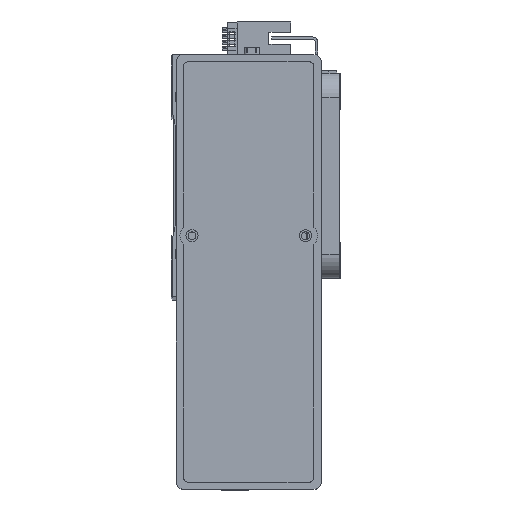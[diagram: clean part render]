
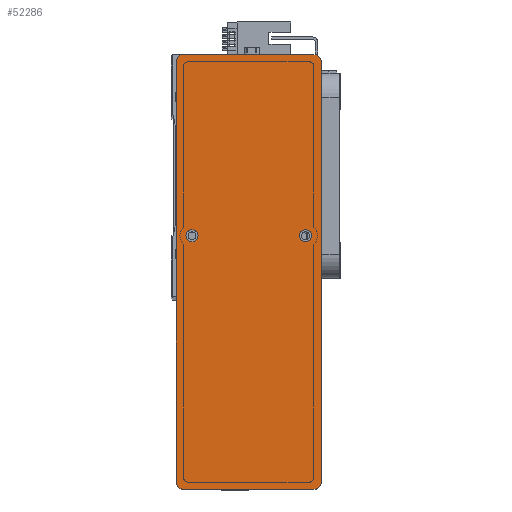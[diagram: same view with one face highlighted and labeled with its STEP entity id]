
A CAD part, top view. The second image highlights one B-rep face of the part: STEP entity #52286.
In plain terms, the highlighted planar face has unit normal (0, 0, 1) as drawn and (0, 0, -1) by its records, which use the part's own axes.
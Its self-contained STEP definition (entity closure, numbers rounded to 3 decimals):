
#80 = AXIS2_PLACEMENT_3D ( 'NONE', #41896, #13546, #46653 ) ;
#178 = DIRECTION ( 'NONE',  ( 1., 0., 0. ) ) ;
#975 = ORIENTED_EDGE ( 'NONE', *, *, #35935, .F. ) ;
#1848 = EDGE_LOOP ( 'NONE', ( #53485, #17724 ) ) ;
#1954 = DIRECTION ( 'NONE',  ( 0., 0., -1. ) ) ;
#2859 = CARTESIAN_POINT ( 'NONE',  ( -87., -27., 0. ) ) ;
#2995 = CIRCLE ( 'NONE', #36924, 2.5 ) ;
#3424 = VERTEX_POINT ( 'NONE', #17082 ) ;
#5617 = CIRCLE ( 'NONE', #80, 2.5 ) ;
#5779 = CARTESIAN_POINT ( 'NONE',  ( -87., 27., 0. ) ) ;
#6189 = VERTEX_POINT ( 'NONE', #42320 ) ;
#6257 = EDGE_CURVE ( 'NONE', #25280, #10185, #9393, .T. ) ;
#6724 = FACE_BOUND ( 'NONE', #1848, .T. ) ;
#7228 = VECTOR ( 'NONE', #22474, 1000. ) ;
#7247 = EDGE_CURVE ( 'NONE', #25280, #27539, #32456, .T. ) ;
#7635 = DIRECTION ( 'NONE',  ( 1., 0., 0. ) ) ;
#8186 = CARTESIAN_POINT ( 'NONE',  ( 0., 0., 0. ) ) ;
#8322 = ORIENTED_EDGE ( 'NONE', *, *, #43677, .F. ) ;
#8498 = ORIENTED_EDGE ( 'NONE', *, *, #44645, .T. ) ;
#9258 = EDGE_CURVE ( 'NONE', #16899, #10185, #26084, .T. ) ;
#9393 = CIRCLE ( 'NONE', #9645, 3. ) ;
#9638 = VERTEX_POINT ( 'NONE', #25749 ) ;
#9645 = AXIS2_PLACEMENT_3D ( 'NONE', #38177, #9790, #42942 ) ;
#9790 = DIRECTION ( 'NONE',  ( 0., 0., -1. ) ) ;
#9976 = EDGE_CURVE ( 'NONE', #9638, #17037, #16389, .T. ) ;
#10185 = VERTEX_POINT ( 'NONE', #32669 ) ;
#10545 = AXIS2_PLACEMENT_3D ( 'NONE', #5779, #38914, #10555 ) ;
#10555 = DIRECTION ( 'NONE',  ( 1., 0., 0. ) ) ;
#10918 = CARTESIAN_POINT ( 'NONE',  ( -12.5, 23.5, 0. ) ) ;
#11904 = CARTESIAN_POINT ( 'NONE',  ( -15., 23.5, 0. ) ) ;
#12012 = EDGE_CURVE ( 'NONE', #55915, #17037, #42580, .T. ) ;
#12747 = CARTESIAN_POINT ( 'NONE',  ( 90., -30., 0. ) ) ;
#13177 = DIRECTION ( 'NONE',  ( 0., 0., 1. ) ) ;
#13546 = DIRECTION ( 'NONE',  ( 0., 0., -1. ) ) ;
#16389 = LINE ( 'NONE', #23627, #33431 ) ;
#16649 = DIRECTION ( 'NONE',  ( -1., 0., 0. ) ) ;
#16799 = DIRECTION ( 'NONE',  ( 0., 0., -1. ) ) ;
#16899 = VERTEX_POINT ( 'NONE', #39844 ) ;
#17037 = VERTEX_POINT ( 'NONE', #51568 ) ;
#17082 = CARTESIAN_POINT ( 'NONE',  ( -12.5, -23.5, 0. ) ) ;
#17724 = ORIENTED_EDGE ( 'NONE', *, *, #39867, .F. ) ;
#18181 = AXIS2_PLACEMENT_3D ( 'NONE', #28282, #61333, #33050 ) ;
#19351 = FACE_OUTER_BOUND ( 'NONE', #57017, .T. ) ;
#22474 = DIRECTION ( 'NONE',  ( -1., 0., 0. ) ) ;
#22607 = LINE ( 'NONE', #56829, #33779 ) ;
#23627 = CARTESIAN_POINT ( 'NONE',  ( -90., -30., 0. ) ) ;
#24723 = ORIENTED_EDGE ( 'NONE', *, *, #49288, .F. ) ;
#24735 = VERTEX_POINT ( 'NONE', #10918 ) ;
#25280 = VERTEX_POINT ( 'NONE', #44416 ) ;
#25449 = CIRCLE ( 'NONE', #10545, 3. ) ;
#25749 = CARTESIAN_POINT ( 'NONE',  ( -90., 27., 0. ) ) ;
#26084 = LINE ( 'NONE', #12747, #48336 ) ;
#26331 = AXIS2_PLACEMENT_3D ( 'NONE', #30331, #1954, #35107 ) ;
#26802 = VERTEX_POINT ( 'NONE', #37846 ) ;
#27508 = AXIS2_PLACEMENT_3D ( 'NONE', #2859, #36047, #7635 ) ;
#27539 = VERTEX_POINT ( 'NONE', #48121 ) ;
#27766 = ORIENTED_EDGE ( 'NONE', *, *, #7247, .F. ) ;
#28282 = CARTESIAN_POINT ( 'NONE',  ( -15., -23.5, 0. ) ) ;
#30331 = CARTESIAN_POINT ( 'NONE',  ( 87., -27., 0. ) ) ;
#31875 = AXIS2_PLACEMENT_3D ( 'NONE', #8186, #13177, #46289 ) ;
#31909 = FACE_BOUND ( 'NONE', #53660, .T. ) ;
#32456 = LINE ( 'NONE', #50840, #7228 ) ;
#32669 = CARTESIAN_POINT ( 'NONE',  ( 90., 27., 0. ) ) ;
#33050 = DIRECTION ( 'NONE',  ( -1., 0., 0. ) ) ;
#33431 = VECTOR ( 'NONE', #56683, 1000. ) ;
#33779 = VECTOR ( 'NONE', #178, 1000. ) ;
#34573 = CIRCLE ( 'NONE', #18181, 2.5 ) ;
#35107 = DIRECTION ( 'NONE',  ( 1., 0., 0. ) ) ;
#35875 = CARTESIAN_POINT ( 'NONE',  ( 87., -30., 0. ) ) ;
#35935 = EDGE_CURVE ( 'NONE', #6189, #3424, #2995, .T. ) ;
#36047 = DIRECTION ( 'NONE',  ( 0., 0., -1. ) ) ;
#36924 = AXIS2_PLACEMENT_3D ( 'NONE', #45152, #16799, #49924 ) ;
#37127 = EDGE_CURVE ( 'NONE', #26802, #24735, #5617, .T. ) ;
#37846 = CARTESIAN_POINT ( 'NONE',  ( -17.5, 23.5, 0. ) ) ;
#38177 = CARTESIAN_POINT ( 'NONE',  ( 87., 27., 0. ) ) ;
#38513 = CIRCLE ( 'NONE', #45084, 2.5 ) ;
#38914 = DIRECTION ( 'NONE',  ( 0., 0., -1. ) ) ;
#39844 = CARTESIAN_POINT ( 'NONE',  ( 90., -27., 0. ) ) ;
#39867 = EDGE_CURVE ( 'NONE', #24735, #26802, #38513, .T. ) ;
#41534 = PLANE ( 'NONE',  #31875 ) ;
#41896 = CARTESIAN_POINT ( 'NONE',  ( -15., 23.5, 0. ) ) ;
#42195 = CIRCLE ( 'NONE', #26331, 3. ) ;
#42320 = CARTESIAN_POINT ( 'NONE',  ( -17.5, -23.5, 0. ) ) ;
#42580 = CIRCLE ( 'NONE', #27508, 3. ) ;
#42942 = DIRECTION ( 'NONE',  ( 1., 0., 0. ) ) ;
#43677 = EDGE_CURVE ( 'NONE', #55915, #48395, #22607, .T. ) ;
#44416 = CARTESIAN_POINT ( 'NONE',  ( 87., 30., 0. ) ) ;
#44645 = EDGE_CURVE ( 'NONE', #9638, #27539, #25449, .T. ) ;
#45003 = DIRECTION ( 'NONE',  ( 0., 0., -1. ) ) ;
#45084 = AXIS2_PLACEMENT_3D ( 'NONE', #11904, #45003, #16649 ) ;
#45152 = CARTESIAN_POINT ( 'NONE',  ( -15., -23.5, 0. ) ) ;
#45742 = ORIENTED_EDGE ( 'NONE', *, *, #52647, .T. ) ;
#46289 = DIRECTION ( 'NONE',  ( 1., 0., 0. ) ) ;
#46653 = DIRECTION ( 'NONE',  ( -1., 0., 0. ) ) ;
#47435 = ORIENTED_EDGE ( 'NONE', *, *, #9258, .F. ) ;
#48121 = CARTESIAN_POINT ( 'NONE',  ( -87., 30., 0. ) ) ;
#48336 = VECTOR ( 'NONE', #55309, 1000. ) ;
#48395 = VERTEX_POINT ( 'NONE', #35875 ) ;
#49288 = EDGE_CURVE ( 'NONE', #3424, #6189, #34573, .T. ) ;
#49924 = DIRECTION ( 'NONE',  ( -1., 0., 0. ) ) ;
#50753 = ORIENTED_EDGE ( 'NONE', *, *, #12012, .T. ) ;
#50840 = CARTESIAN_POINT ( 'NONE',  ( 90., 30., 0. ) ) ;
#51568 = CARTESIAN_POINT ( 'NONE',  ( -90., -27., 0. ) ) ;
#51924 = ORIENTED_EDGE ( 'NONE', *, *, #6257, .T. ) ;
#52286 = ADVANCED_FACE ( 'NONE', ( #6724, #31909, #19351 ), #41534, .F. ) ;
#52647 = EDGE_CURVE ( 'NONE', #16899, #48395, #42195, .T. ) ;
#53485 = ORIENTED_EDGE ( 'NONE', *, *, #37127, .F. ) ;
#53660 = EDGE_LOOP ( 'NONE', ( #975, #24723 ) ) ;
#54302 = ORIENTED_EDGE ( 'NONE', *, *, #9976, .F. ) ;
#55309 = DIRECTION ( 'NONE',  ( 0., 1., 0. ) ) ;
#55915 = VERTEX_POINT ( 'NONE', #61198 ) ;
#56683 = DIRECTION ( 'NONE',  ( 0., -1., 0. ) ) ;
#56829 = CARTESIAN_POINT ( 'NONE',  ( 90., -30., 0. ) ) ;
#57017 = EDGE_LOOP ( 'NONE', ( #47435, #45742, #8322, #50753, #54302, #8498, #27766, #51924 ) ) ;
#61198 = CARTESIAN_POINT ( 'NONE',  ( -87., -30., 0. ) ) ;
#61333 = DIRECTION ( 'NONE',  ( 0., 0., -1. ) ) ;
